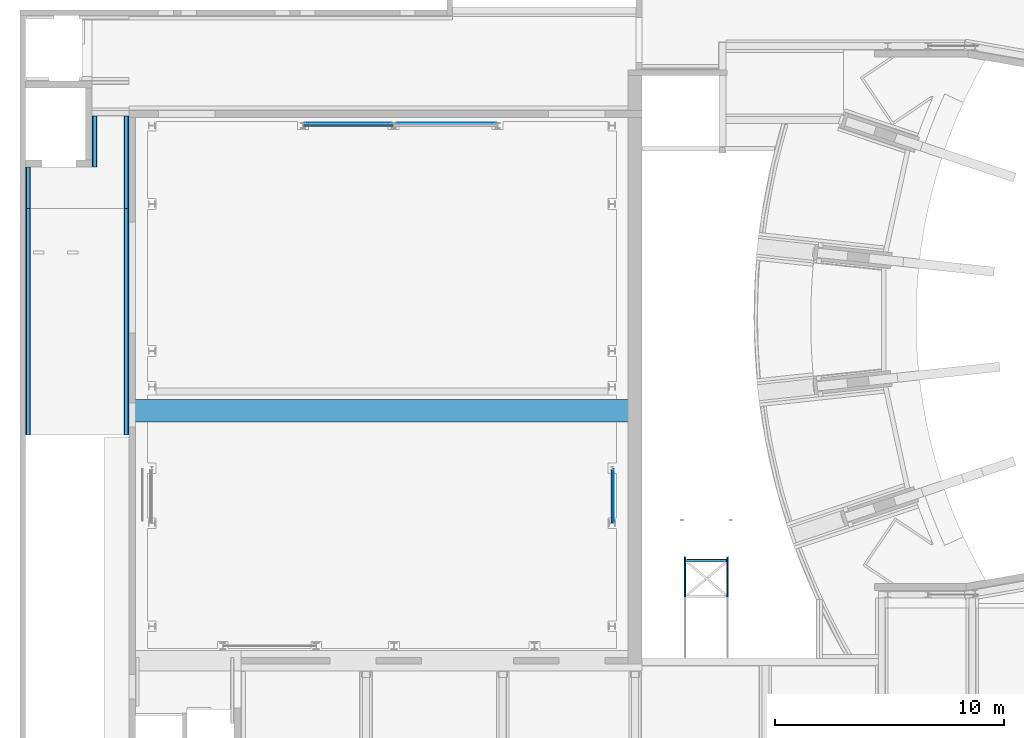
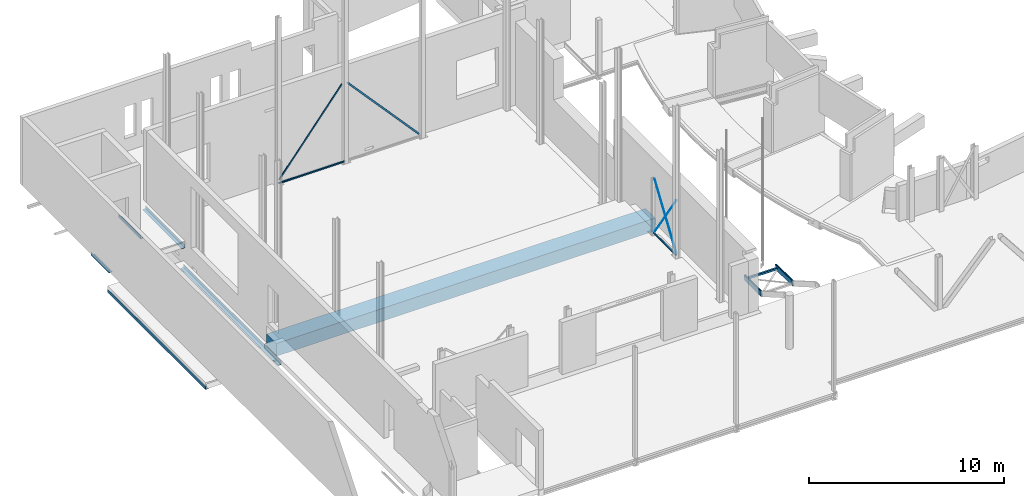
# One storey, part 13 of 37: 15 beams.
"""IFC2X3 building model written with IfcOpenShell, lengths in millimetres."""

from ifc_helpers import new_model, entity, si_unit, converted_unit, derived_unit, direction, frame, frame_2d, origin, origin_2d_with_axis, place, context, subcontext, project, spatial, polyline, circle_curve, parameter, trimmed, segment, composite_curve, rectangle, circle, outline, extrude, clip, halfspace, source, transform, mapped, material, type_object, type_shapes, element, save


model = new_model("IFC2X3")

# Units and contexts
model_context = context("Model", 3, precision=0.01, world=origin(), true_north=direction((6.12303176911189e-17, 1.0)))
body_context = subcontext(model_context, "Body", "Model", "MODEL_VIEW")
ifc_project = project(units=[si_unit("LENGTHUNIT", "METRE", prefix="MILLI"), si_unit("AREAUNIT", "SQUARE_METRE", prefix="MILLI"), si_unit("VOLUMEUNIT", "CUBIC_METRE"), converted_unit("PLANEANGLEUNIT", "DEGREE", entity("IfcRatioMeasure", 0.0174532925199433), si_unit("PLANEANGLEUNIT", "RADIAN"), dimensions=[0, 0, 0, 0, 0, 0, 0]), si_unit("MASSUNIT", "GRAM", prefix="KILO"), derived_unit("MASSDENSITYUNIT", [(si_unit("MASSUNIT", "GRAM", prefix="KILO"), 1), (si_unit("LENGTHUNIT", "METRE"), -3)]), derived_unit("MOMENTOFINERTIAUNIT", [(si_unit("LENGTHUNIT", "METRE"), 4)]), si_unit("TIMEUNIT", "SECOND"), si_unit("FREQUENCYUNIT", "HERTZ"), si_unit("THERMODYNAMICTEMPERATUREUNIT", "DEGREE_CELSIUS"), derived_unit("THERMALTRANSMITTANCEUNIT", [(si_unit("MASSUNIT", "GRAM", prefix="KILO"), 1), (si_unit("THERMODYNAMICTEMPERATUREUNIT", "KELVIN"), -1), (si_unit("TIMEUNIT", "SECOND"), -3)]), derived_unit("VOLUMETRICFLOWRATEUNIT", [(si_unit("LENGTHUNIT", "METRE"), 3), (si_unit("TIMEUNIT", "SECOND"), -1)]), si_unit("ELECTRICCURRENTUNIT", "AMPERE"), si_unit("ELECTRICVOLTAGEUNIT", "VOLT"), si_unit("POWERUNIT", "WATT"), si_unit("FORCEUNIT", "NEWTON", prefix="KILO"), si_unit("ILLUMINANCEUNIT", "LUX"), si_unit("LUMINOUSFLUXUNIT", "LUMEN"), si_unit("LUMINOUSINTENSITYUNIT", "CANDELA"), derived_unit("USERDEFINED", [(si_unit("MASSUNIT", "GRAM", prefix="KILO"), -1), (si_unit("LENGTHUNIT", "METRE"), -2), (si_unit("TIMEUNIT", "SECOND"), 3), (si_unit("LUMINOUSFLUXUNIT", "LUMEN"), 1)]), derived_unit("LINEARVELOCITYUNIT", [(si_unit("LENGTHUNIT", "METRE"), 1), (si_unit("TIMEUNIT", "SECOND"), -1)]), si_unit("PRESSUREUNIT", "PASCAL"), derived_unit("USERDEFINED", [(si_unit("LENGTHUNIT", "METRE"), -2), (si_unit("MASSUNIT", "GRAM", prefix="KILO"), 1), (si_unit("TIMEUNIT", "SECOND"), -2)]), derived_unit("LINEARFORCEUNIT", [(si_unit("MASSUNIT", "GRAM", prefix="KILO"), 1), (si_unit("LENGTHUNIT", "METRE"), 1), (si_unit("TIMEUNIT", "SECOND"), -2), (si_unit("LENGTHUNIT", "METRE"), -1)]), derived_unit("PLANARFORCEUNIT", [(si_unit("MASSUNIT", "GRAM", prefix="KILO"), 1), (si_unit("LENGTHUNIT", "METRE"), 1), (si_unit("TIMEUNIT", "SECOND"), -2), (si_unit("LENGTHUNIT", "METRE"), -2)])], contexts=[model_context])

# Site, building, storey
site_placement = place(None, origin())
site = spatial("IfcSite", under=ifc_project, at=site_placement, Name="Theater aan de Parade", CompositionType="ELEMENT")
building_placement = place(site_placement, origin())
building = spatial("IfcBuilding", under=site, at=building_placement, Name="Theater aan de Parade", CompositionType="ELEMENT")
storey_placement = place(building_placement, frame((0.0, 0.0, 5020.0)))
storey = spatial("IfcBuildingStorey", under=building, at=storey_placement, Name="01 eerste verdieping", CompositionType="ELEMENT", Elevation=5020.0)

# Beams
ifc_material_1 = material(Name="00_PBT_MAT_staal")
beam_type_1 = type_object("IfcBeamType", Name="28_PBT_SF_staal_strip:strip 6x100", PredefinedType="NOTDEFINED")
beam_1_placement = place(storey_placement, frame((22661.4021694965, 41043.308327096, -1290.46754617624), z_axis=(0.784100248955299, 0.0, -0.620634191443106), x_axis=(0.620634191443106, 0.0, 0.784100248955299)))
element("IfcBeam", 1, at=beam_1_placement, inside=storey, type_object=beam_type_1, material=ifc_material_1, Name="28_PBT_SF_staal_strip:strip 6x100", ObjectType="28_PBT_SF_staal_strip:strip 6x100", context=body_context, shape_type="SweptSolid", body=[
    extrude(rectangle(XDim=99.9999999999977, YDim=5.99999999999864, at=origin_2d_with_axis()), frame((181.193423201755, -3.0, 0.0), z_axis=(1.0, 0.0, 0.0), x_axis=(0.0, 0.0, -1.0)), (0.0, 0.0, 1.0), 5977.75638395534),
])
beam_2_placement = place(storey_placement, frame((26670.6787727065, 41043.308327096, 3657.57421189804), z_axis=(0.742128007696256, 0.0, 0.670258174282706), x_axis=(0.670258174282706, 0.0, -0.742128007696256)))
element("IfcBeam", 2, at=beam_2_placement, inside=storey, type_object=beam_type_1, material=ifc_material_1, Name="28_PBT_SF_staal_strip:strip 6x100", ObjectType="28_PBT_SF_staal_strip:strip 6x100", context=body_context, shape_type="SweptSolid", body=[
    extrude(rectangle(XDim=100.0, YDim=6.0000000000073, at=frame_2d((-3.62376795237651e-13, -4.33142410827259e-12), x_axis=(1.0, 0.0))), frame((172.314439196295, 3.0, 0.0), z_axis=(1.0, 0.0, 0.0), x_axis=(0.0, 0.0, -1.0)), (0.0, 0.0, 1.0), 6384.75953953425),
])
ifc_material_2 = material(Name="00_PBT_MAT_staal_S355")
beam_type_2 = type_object("IfcBeamType", Name="28_PBT_SF_staal_L-profiel:S355_L200x200x20", PredefinedType="NOTDEFINED")
beam_3_placement = place(storey_placement, frame((13511.6570025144, 41333.308327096, 0.0), z_axis=(0.0, 0.0, 1.0), x_axis=(0.0, -1.0, 0.0)))
element("IfcBeam", 3, at=beam_3_placement, inside=storey, type_object=beam_type_2, material=ifc_material_2, Name="28_PBT_SF_staal_L-profiel:S355_L200x200x20", ObjectType="28_PBT_SF_staal_L-profiel:S355_L200x200x20", context=body_context, shape_type="SweptSolid", body=[
    extrude(outline(composite_curve([segment(polyline([(-124.444444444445, -75.5555555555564), (75.5555555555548, -75.5555555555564)]), True, "CONTINUOUS"), segment(polyline([(75.5555555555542, -75.5555555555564), (75.5555555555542, 124.444444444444)]), True, "CONTINUOUS"), segment(polyline([(75.5555555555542, 124.444444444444), (64.5555555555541, 124.444444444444)]), True, "CONTINUOUS"), segment(trimmed(circle_curve(frame_2d((64.5555555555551, 115.444444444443), x_axis=(0.0, 1.0)), 9.0000000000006), [parameter(0.0)], [parameter(89.9999999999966)], True, "PARAMETER"), True, "CONTINUOUS"), segment(polyline([(55.5555555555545, 115.444444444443), (55.5555555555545, -37.5555555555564)]), True, "CONTINUOUS"), segment(trimmed(circle_curve(frame_2d((37.5555555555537, -37.5555555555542), x_axis=(1.0, 0.0)), 18.000000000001), [parameter(270.000000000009)], [parameter(0.0)], True, "PARAMETER"), False, "CONTINUOUS"), segment(polyline([(37.5555555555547, -55.5555555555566), (-115.444444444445, -55.5555555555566)]), True, "CONTINUOUS"), segment(trimmed(circle_curve(frame_2d((-115.444444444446, -64.5555555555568), x_axis=(0.0, 1.0)), 8.99999999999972), [parameter(0.0)], [parameter(90.0000000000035)], True, "PARAMETER"), True, "CONTINUOUS"), segment(polyline([(-124.444444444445, -64.5555555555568), (-124.444444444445, -75.5555555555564)]), True, "CONTINUOUS")], self_intersect=False)), frame((0.0, 18.7555555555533, -349.444444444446), z_axis=(1.0, 0.0, 0.0), x_axis=(0.0, 0.0, -1.0)), (0.0, 0.0, 1.0), 2213.30832712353),
])
beam_4_placement = place(storey_placement, frame((10610.9125537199, 39120.0, 0.0), z_axis=(0.0, 0.0, 1.0), x_axis=(0.0, -1.0, 0.0)))
element("IfcBeam", 4, at=beam_4_placement, inside=storey, type_object=beam_type_2, material=ifc_material_2, Name="28_PBT_SF_staal_L-profiel:S355_L200x200x20", ObjectType="28_PBT_SF_staal_L-profiel:S355_L200x200x20", context=body_context, shape_type="SweptSolid", body=[
    extrude(outline(composite_curve([segment(polyline([(-124.444444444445, -75.5555555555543), (75.5555555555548, -75.5555555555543)]), True, "CONTINUOUS"), segment(polyline([(75.5555555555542, -75.5555555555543), (75.5555555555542, 124.444444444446)]), True, "CONTINUOUS"), segment(polyline([(75.5555555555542, 124.444444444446), (64.5555555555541, 124.444444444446)]), True, "CONTINUOUS"), segment(trimmed(circle_curve(frame_2d((64.5555555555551, 115.444444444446), x_axis=(0.0, 1.0)), 9.0000000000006), [parameter(0.0)], [parameter(89.9999999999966)], True, "PARAMETER"), True, "CONTINUOUS"), segment(polyline([(55.5555555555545, 115.444444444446), (55.5555555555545, -37.5555555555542)]), True, "CONTINUOUS"), segment(trimmed(circle_curve(frame_2d((37.5555555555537, -37.5555555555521), x_axis=(1.0, 0.0)), 18.000000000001), [parameter(270.000000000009)], [parameter(0.0)], True, "PARAMETER"), False, "CONTINUOUS"), segment(polyline([(37.5555555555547, -55.5555555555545), (-115.444444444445, -55.5555555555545)]), True, "CONTINUOUS"), segment(trimmed(circle_curve(frame_2d((-115.444444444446, -64.5555555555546), x_axis=(0.0, 1.0)), 8.99999999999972), [parameter(0.0)], [parameter(90.0000000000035)], True, "PARAMETER"), True, "CONTINUOUS"), segment(polyline([(-124.444444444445, -64.5555555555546), (-124.444444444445, -75.5555555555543)]), True, "CONTINUOUS")], self_intersect=False)), frame((0.0, 18.7555555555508, -349.444444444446), z_axis=(1.0, 0.0, 0.0), x_axis=(0.0, 0.0, -1.0)), (0.0, 0.0, 1.0), 1816.68550017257),
])
beam_5_placement = place(storey_placement, frame((14997.0570025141, 41333.308327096, 0.0), z_axis=(0.0, 0.0, 1.0), x_axis=(0.0, -1.0, 0.0)))
element("IfcBeam", 5, at=beam_5_placement, inside=storey, type_object=beam_type_2, material=ifc_material_2, Name="28_PBT_SF_staal_L-profiel:S355_L200x200x20", ObjectType="28_PBT_SF_staal_L-profiel:S355_L200x200x20", context=body_context, shape_type="SweptSolid", body=[
    extrude(outline(composite_curve([segment(polyline([(64.5555555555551, -124.444444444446), (75.5555555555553, -124.444444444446)]), True, "CONTINUOUS"), segment(polyline([(75.5555555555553, -124.444444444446), (75.5555555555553, 75.5555555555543)]), True, "CONTINUOUS"), segment(polyline([(75.5555555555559, 75.5555555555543), (-124.444444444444, 75.5555555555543)]), True, "CONTINUOUS"), segment(polyline([(-124.444444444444, 75.5555555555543), (-124.444444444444, 64.5555555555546)]), True, "CONTINUOUS"), segment(trimmed(circle_curve(frame_2d((-115.444444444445, 64.5555555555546), x_axis=(-1.0, 0.0)), 8.99999999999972), [parameter(0.0)], [parameter(90.0000000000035)], True, "PARAMETER"), True, "CONTINUOUS"), segment(polyline([(-115.444444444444, 55.5555555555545), (37.5555555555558, 55.5555555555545)]), True, "CONTINUOUS"), segment(trimmed(circle_curve(frame_2d((37.5555555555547, 37.5555555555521), x_axis=(0.0, 1.0)), 18.000000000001), [parameter(270.000000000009)], [parameter(0.0)], True, "PARAMETER"), False, "CONTINUOUS"), segment(polyline([(55.5555555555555, 37.5555555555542), (55.5555555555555, -115.444444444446)]), True, "CONTINUOUS"), segment(trimmed(circle_curve(frame_2d((64.5555555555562, -115.444444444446), x_axis=(-1.0, 0.0)), 9.0000000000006), [parameter(0.0)], [parameter(89.9999999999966)], True, "PARAMETER"), True, "CONTINUOUS")], self_intersect=False)), frame((0.0, -18.755555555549, -349.444444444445), z_axis=(1.0, 0.0, 0.0), x_axis=(0.0, 0.0, -1.0)), (0.0, 0.0, 1.0), 4029.99382729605),
])
beam_6_placement = place(storey_placement, frame((10610.9125537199, 37428.3144998, 0.0), z_axis=(0.0, 0.0, 1.0), x_axis=(0.0, -1.0, 0.0)))
element("IfcBeam", 6, at=beam_6_placement, inside=storey, type_object=beam_type_2, material=ifc_material_2, Name="28_PBT_SF_staal_L-profiel:S355_L200x200x20", ObjectType="28_PBT_SF_staal_L-profiel:S355_L200x200x20", context=body_context, shape_type="SweptSolid", body=[
    extrude(outline(composite_curve([segment(polyline([(-124.444444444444, -75.5555555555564), (75.5555555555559, -75.5555555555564)]), True, "CONTINUOUS"), segment(polyline([(75.5555555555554, -75.5555555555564), (75.5555555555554, 124.444444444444)]), True, "CONTINUOUS"), segment(polyline([(75.5555555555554, 124.444444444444), (64.5555555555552, 124.444444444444)]), True, "CONTINUOUS"), segment(trimmed(circle_curve(frame_2d((64.5555555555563, 115.444444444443), x_axis=(0.0, 1.0)), 9.0000000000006), [parameter(0.0)], [parameter(89.9999999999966)], True, "PARAMETER"), True, "CONTINUOUS"), segment(polyline([(55.5555555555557, 115.444444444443), (55.5555555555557, -37.5555555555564)]), True, "CONTINUOUS"), segment(trimmed(circle_curve(frame_2d((37.5555555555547, -37.5555555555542), x_axis=(1.0, 0.0)), 18.000000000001), [parameter(270.000000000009)], [parameter(0.0)], True, "PARAMETER"), False, "CONTINUOUS"), segment(polyline([(37.5555555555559, -55.5555555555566), (-115.444444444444, -55.5555555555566)]), True, "CONTINUOUS"), segment(trimmed(circle_curve(frame_2d((-115.444444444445, -64.5555555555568), x_axis=(0.0, 1.0)), 8.99999999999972), [parameter(0.0)], [parameter(90.0000000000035)], True, "PARAMETER"), True, "CONTINUOUS"), segment(polyline([(-124.444444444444, -64.5555555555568), (-124.444444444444, -75.5555555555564)]), True, "CONTINUOUS")], self_intersect=False)), frame((0.0, 18.7555555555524, -1649.44444444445), z_axis=(1.0, 0.0, 0.0), x_axis=(0.0, 0.0, -1.0)), (0.0, 0.0, 1.0), 10008.9874252),
])
beam_7_placement = place(storey_placement, frame((14997.0570025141, 37428.3144998, 0.0), z_axis=(0.0, 0.0, 1.0), x_axis=(0.0, -1.0, 0.0)))
element("IfcBeam", 7, at=beam_7_placement, inside=storey, type_object=beam_type_2, material=ifc_material_2, Name="28_PBT_SF_staal_L-profiel:S355_L200x200x20", ObjectType="28_PBT_SF_staal_L-profiel:S355_L200x200x20", context=body_context, shape_type="SweptSolid", body=[
    extrude(outline(composite_curve([segment(polyline([(64.5555555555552, -124.444444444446), (75.5555555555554, -124.444444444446)]), True, "CONTINUOUS"), segment(polyline([(75.5555555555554, -124.444444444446), (75.5555555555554, 75.5555555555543)]), True, "CONTINUOUS"), segment(polyline([(75.5555555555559, 75.5555555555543), (-124.444444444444, 75.5555555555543)]), True, "CONTINUOUS"), segment(polyline([(-124.444444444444, 75.5555555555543), (-124.444444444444, 64.5555555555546)]), True, "CONTINUOUS"), segment(trimmed(circle_curve(frame_2d((-115.444444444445, 64.5555555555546), x_axis=(-1.0, 0.0)), 8.99999999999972), [parameter(0.0)], [parameter(90.0000000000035)], True, "PARAMETER"), True, "CONTINUOUS"), segment(polyline([(-115.444444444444, 55.5555555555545), (37.5555555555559, 55.5555555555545)]), True, "CONTINUOUS"), segment(trimmed(circle_curve(frame_2d((37.5555555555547, 37.5555555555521), x_axis=(0.0, 1.0)), 18.000000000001), [parameter(270.000000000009)], [parameter(0.0)], True, "PARAMETER"), False, "CONTINUOUS"), segment(polyline([(55.5555555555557, 37.5555555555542), (55.5555555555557, -115.444444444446)]), True, "CONTINUOUS"), segment(trimmed(circle_curve(frame_2d((64.5555555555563, -115.444444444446), x_axis=(-1.0, 0.0)), 9.0000000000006), [parameter(0.0)], [parameter(89.9999999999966)], True, "PARAMETER"), True, "CONTINUOUS")], self_intersect=False)), frame((0.0, -18.7555555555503, -1649.44444444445), z_axis=(1.0, 0.0, 0.0), x_axis=(0.0, 0.0, -1.0)), (0.0, 0.0, 1.0), 10008.9874252),
])
ifc_material_3 = material(Name="00_PBT_MAT_beton t.p.g._C30/37")
beam_type_3 = type_object("IfcBeamType", Name="28_PBT_SF_betonbalk:C30/37_1000x1800", PredefinedType="NOTDEFINED")
beam_8_placement = place(storey_placement, frame((15203.8570025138, 28973.314499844, 0.0)))
element("IfcBeam", 8, at=beam_8_placement, inside=storey, type_object=beam_type_3, material=ifc_material_3, Name="28_PBT_SF_betonbalk:C30/37_1000x1800", ObjectType="28_PBT_SF_betonbalk:C30/37_1000x1800", context=body_context, shape_type="SweptSolid", body=[
    extrude(rectangle(XDim=800.0, YDim=1000.0, at=frame_2d((0.0, -4.32009983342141e-12), x_axis=(1.0, 0.0))), frame((-150.0, -500.0, -1150.0), z_axis=(1.0, 0.0, 0.0), x_axis=(0.0, 0.0, -1.0)), (0.0, 0.0, 1.0), 22400.0011275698),
])
beam_type_4 = type_object("IfcBeamType", Name="28_PBT_SF_staal_koker:S355_K80x80x5", PredefinedType="NOTDEFINED")
beam_9_placement = place(storey_placement, frame((22658.8570032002, 40923.3083270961, 0.0)))
element("IfcBeam", 9, at=beam_9_placement, inside=storey, type_object=beam_type_4, material=ifc_material_2, Name="28_PBT_SF_staal_koker:S355_K80x80x5", ObjectType="28_PBT_SF_staal_koker:S355_K80x80x5", context=body_context, shape_type="SweptSolid", body=[
    extrude(outline(composite_curve([segment(polyline([(-32.5000000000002, -40.0), (32.4999999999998, -40.0)]), True, "CONTINUOUS"), segment(trimmed(circle_curve(frame_2d((32.4999999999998, -32.5000000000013), x_axis=(0.0, 1.0)), 7.5), [parameter(180.0)], [parameter(270.0)], True, "PARAMETER"), True, "CONTINUOUS"), segment(polyline([(40.0, -32.4999999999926), (40.0, 32.5000000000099)]), True, "CONTINUOUS"), segment(trimmed(circle_curve(frame_2d((32.4999999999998, 32.5000000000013), x_axis=(0.0, 1.0)), 7.5), [parameter(270.0)], [parameter(360.0)], True, "PARAMETER"), True, "CONTINUOUS"), segment(polyline([(32.4999999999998, 40.0), (-32.5000000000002, 40.0)]), True, "CONTINUOUS"), segment(trimmed(circle_curve(frame_2d((-32.5000000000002, 32.5000000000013), x_axis=(0.0, 1.0)), 7.5), [parameter(0.0)], [parameter(90.0000000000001)], True, "PARAMETER"), True, "CONTINUOUS"), segment(polyline([(-40.0, 32.5000000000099), (-40.0, -32.4999999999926)]), True, "CONTINUOUS"), segment(trimmed(circle_curve(frame_2d((-32.5000000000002, -32.5000000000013), x_axis=(0.0, 1.0)), 7.5), [parameter(90.0)], [parameter(180.0)], True, "PARAMETER"), True, "CONTINUOUS")], self_intersect=False), holes=[composite_curve([segment(polyline([(35.0, 30.0), (35.0, -30.0)]), True, "CONTINUOUS"), segment(trimmed(circle_curve(frame_2d((30.0, -30.0), x_axis=(0.0, 1.0)), 5.0), [parameter(180.0)], [parameter(270.0)], True, "PARAMETER"), False, "CONTINUOUS"), segment(polyline([(30.0, -35.0), (-30.0, -35.0)]), True, "CONTINUOUS"), segment(trimmed(circle_curve(frame_2d((-30.0, -30.0), x_axis=(0.0, 1.0)), 5.0), [parameter(90.0)], [parameter(180.0)], True, "PARAMETER"), False, "CONTINUOUS"), segment(polyline([(-35.0, -30.0), (-35.0, 30.0)]), True, "CONTINUOUS"), segment(trimmed(circle_curve(frame_2d((-30.0, 30.0), x_axis=(0.0, 1.0)), 5.0), [parameter(4.07110999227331e-13)], [parameter(90.0000000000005)], True, "PARAMETER"), False, "CONTINUOUS"), segment(polyline([(-30.0, 35.0), (30.0, 35.0)]), True, "CONTINUOUS"), segment(trimmed(circle_curve(frame_2d((30.0, 30.0), x_axis=(0.0, 1.0)), 5.0), [parameter(270.0)], [parameter(5.08888749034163e-14)], True, "PARAMETER"), False, "CONTINUOUS")], self_intersect=False)]), frame((0.0, 0.0, -1250.0), z_axis=(1.0, 0.0, 0.0), x_axis=(0.0, 0.0, 1.0)), (0.0, 0.0, 1.0), 3940.0),
])
beam_10_placement = place(storey_placement, frame((36153.8581300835, 25896.7922984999, 0.0), z_axis=(0.0, 0.0, 1.0), x_axis=(0.0, -1.0, 0.0)))
element("IfcBeam", 10, at=beam_10_placement, inside=storey, type_object=beam_type_4, material=ifc_material_2, Name="28_PBT_SF_staal_koker:S355_K80x80x5", ObjectType="28_PBT_SF_staal_koker:S355_K80x80x5", context=body_context, shape_type="SweptSolid", body=[
    extrude(outline(composite_curve([segment(trimmed(circle_curve(frame_2d((-32.5000000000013, -32.5000000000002), x_axis=(1.0, 0.0)), 7.5), [parameter(180.0)], [parameter(270.0)], True, "PARAMETER"), True, "CONTINUOUS"), segment(polyline([(-32.5000000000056, -40.0), (32.4999999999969, -40.0)]), True, "CONTINUOUS"), segment(trimmed(circle_curve(frame_2d((32.4999999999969, -32.5000000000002), x_axis=(1.0, 0.0)), 7.5), [parameter(270.0)], [parameter(0.0)], True, "PARAMETER"), True, "CONTINUOUS"), segment(polyline([(40.0, -32.5000000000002), (40.0, 32.5000000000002)]), True, "CONTINUOUS"), segment(trimmed(circle_curve(frame_2d((32.4999999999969, 32.5000000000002), x_axis=(1.0, 0.0)), 7.5), [parameter(4.07110999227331e-13)], [parameter(90.0000000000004)], True, "PARAMETER"), True, "CONTINUOUS"), segment(polyline([(32.4999999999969, 40.0), (-32.5000000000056, 40.0)]), True, "CONTINUOUS"), segment(trimmed(circle_curve(frame_2d((-32.5000000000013, 32.5000000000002), x_axis=(1.0, 0.0)), 7.5), [parameter(90.0)], [parameter(180.0)], True, "PARAMETER"), True, "CONTINUOUS"), segment(polyline([(-40.0, 32.5000000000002), (-40.0, -32.5000000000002)]), True, "CONTINUOUS")], self_intersect=False), holes=[composite_curve([segment(trimmed(circle_curve(frame_2d((30.0, 30.0), x_axis=(1.0, 0.0)), 5.0), [parameter(360.0)], [parameter(90.0000000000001)], True, "PARAMETER"), False, "CONTINUOUS"), segment(polyline([(35.0, 30.0), (35.0, -30.0)]), True, "CONTINUOUS"), segment(trimmed(circle_curve(frame_2d((30.0, -30.0), x_axis=(1.0, 0.0)), 5.0), [parameter(269.999999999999)], [parameter(360.0)], True, "PARAMETER"), False, "CONTINUOUS"), segment(polyline([(30.0, -35.0), (-30.0, -35.0)]), True, "CONTINUOUS"), segment(trimmed(circle_curve(frame_2d((-30.0, -30.0), x_axis=(1.0, 0.0)), 5.0), [parameter(180.0)], [parameter(270.0)], True, "PARAMETER"), False, "CONTINUOUS"), segment(polyline([(-35.0, -30.0), (-35.0, 30.0)]), True, "CONTINUOUS"), segment(trimmed(circle_curve(frame_2d((-30.0, 30.0), x_axis=(1.0, 0.0)), 5.0), [parameter(89.9999999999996)], [parameter(180.0)], True, "PARAMETER"), False, "CONTINUOUS"), segment(polyline([(-30.0, 35.0), (30.0, 35.0)]), True, "CONTINUOUS")], self_intersect=False)]), frame((0.0, 0.0, 50.0), z_axis=(1.0, 0.0, 0.0), x_axis=(0.0, 1.0, 0.0)), (0.0, 0.0, 1.0), 2323.25000000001),
])
beam_type_5 = type_object("IfcBeamType", Name="28_PBT_SF_staal_massief_rond:S355_D32", PredefinedType="NOTDEFINED")
beam_11_placement = place(storey_placement, frame((36213.3581300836, 23637.959433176, 103.431236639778), z_axis=(1.0, 0.0, 0.0), x_axis=(0.0, 0.558652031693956, 0.829402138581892)))
element("IfcBeam", 11, at=beam_11_placement, inside=storey, type_object=beam_type_5, material=ifc_material_2, Name="28_PBT_SF_staal_massief_rond:S355_D32", ObjectType="28_PBT_SF_staal_massief_rond:S355_D32", context=body_context, shape_type="SweptSolid", body=[
    extrude(circle(Radius=15.9999999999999, at=origin_2d_with_axis()), frame((0.0, 0.0, -16.0), z_axis=(1.0, 0.0, 0.0), x_axis=(0.0, 0.0, -1.0)), (0.0, 0.0, 1.0), 4000.0),
])
beam_12_placement = place(storey_placement, frame((36198.3581300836, 25910.2648540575, 78.7271384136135), z_axis=(1.0, 0.0, 0.0), x_axis=(0.0, -0.558652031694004, 0.829402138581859)))
element("IfcBeam", 12, at=beam_12_placement, inside=storey, type_object=beam_type_5, material=ifc_material_2, Name="28_PBT_SF_staal_massief_rond:S355_D32", ObjectType="28_PBT_SF_staal_massief_rond:S355_D32", context=body_context, shape_type="SweptSolid", body=[
    extrude(circle(Radius=15.9999999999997, at=origin_2d_with_axis()), frame((0.0, 0.0, 16.0), z_axis=(1.0, 0.0, 0.0), x_axis=(0.0, 0.0, -1.0)), (0.0, 0.0, 1.0), 3980.0),
])
beam_type_6 = type_object("IfcBeamType", Name="28_PBT_SF_staal_trapboom_glas:trapboom", PredefinedType="BEAM", material=ifc_material_2)
shared_shape_1 = source(origin(), body_context, "Body", "Clipping", [
    clip(clip(extrude(rectangle(XDim=20.0000000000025, YDim=30.0000000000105, at=frame_2d((8.66329230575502e-12, 1.35358391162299e-12), x_axis=(0.0, 1.0))), frame((41191.8281932, 22049.6464705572, 3365.0), z_axis=(0.0, -1.0, 0.0), x_axis=(-1.0, 0.0, 0.0)), (0.0, 0.0, 1.0), 1709.77764318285), halfspace(frame((39781.7063235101, 23384.6316666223, 8359.77091390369), z_axis=(0.0, 0.965958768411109, -0.258696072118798), x_axis=(0.0, 0.258696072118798, 0.965958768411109)), False)), halfspace(frame((39781.7063235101, 21680.2102783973, 8359.77091390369), z_axis=(0.0, -0.965958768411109, 0.258696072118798), x_axis=(0.0, 0.258696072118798, 0.965958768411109)), False)),
    clip(clip(extrude(rectangle(XDim=310.0, YDim=30.0000000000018, at=frame_2d((4.33164615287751e-12, 1.89004367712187e-12), x_axis=(0.0, 1.0))), frame((41221.8281932, 22121.9559124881, 3490.0), z_axis=(0.0, -1.0, 0.0), x_axis=(-1.0, 0.0, 0.0)), (0.0, 0.0, 1.0), 1787.4433400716), halfspace(frame((39781.7063235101, 23384.6316666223, 8359.77091390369), z_axis=(0.0, 0.965958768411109, -0.258696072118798), x_axis=(0.0, 0.258696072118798, 0.965958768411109)), False)), halfspace(frame((39781.7063235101, 21680.2102783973, 8359.77091390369), z_axis=(0.0, -0.965958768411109, 0.258696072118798), x_axis=(0.0, 0.258696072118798, 0.965958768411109)), False)),
    clip(clip(extrude(rectangle(XDim=19.9999999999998, YDim=30.0000000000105, at=frame_2d((8.66329230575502e-12, 1.62447832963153e-12), x_axis=(0.0, 1.0))), frame((41191.8281932, 22089.818382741, 3515.0), z_axis=(0.0, -1.0, 0.0), x_axis=(-1.0, 0.0, 0.0)), (0.0, 0.0, 1.0), 1709.77764318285), halfspace(frame((39781.7063235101, 23384.6316666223, 8359.77091390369), z_axis=(0.0, 0.965958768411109, -0.258696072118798), x_axis=(0.0, 0.258696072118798, 0.965958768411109)), False)), halfspace(frame((39781.7063235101, 21680.2102783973, 8359.77091390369), z_axis=(0.0, -0.965958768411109, 0.258696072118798), x_axis=(0.0, 0.258696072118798, 0.965958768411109)), False)),
    clip(clip(extrude(rectangle(XDim=310.0, YDim=29.9999999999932, at=frame_2d((0.0, 1.89004367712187e-12), x_axis=(0.0, 1.0))), frame((41161.8281932, 22121.9559124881, 3490.0), z_axis=(0.0, -1.0, 0.0), x_axis=(-1.0, 0.0, 0.0)), (0.0, 0.0, 1.0), 1787.4433400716), halfspace(frame((39781.7063235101, 23384.6316666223, 8359.77091390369), z_axis=(0.0, 0.965958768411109, -0.258696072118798), x_axis=(0.0, 0.258696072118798, 0.965958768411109)), False)), halfspace(frame((39781.7063235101, 21680.2102783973, 8359.77091390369), z_axis=(0.0, -0.965958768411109, 0.258696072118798), x_axis=(0.0, 0.258696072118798, 0.965958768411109)), False)),
])
type_shapes(beam_type_6, [shared_shape_1])
beam_13_placement = place(storey_placement, frame((0.0, 0.0, -5020.0)))
element("IfcBeam", 13, at=beam_13_placement, inside=storey, type_object=beam_type_6, material=ifc_material_2, Name="28_PBT_SF_staal_trapboom_glas:trapboom", ObjectType="28_PBT_SF_staal_trapboom_glas:trapboom", context=body_context, shape_type="MappedRepresentation", body=[
    mapped(shared_shape_1, transform((0.0, 0.0, 0.0), scale=1.0)),
])
beam_type_7 = type_object("IfcBeamType", Name="28_PBT_SF_staal_trapboom_glas:trapboom", PredefinedType="BEAM", material=ifc_material_2)
shared_shape_2 = source(origin(), body_context, "Body", "Clipping", [
    clip(clip(extrude(rectangle(XDim=20.0000000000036, YDim=30.0000000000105, at=frame_2d((0.0, 2.70894418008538e-13), x_axis=(0.0, 1.0))), frame((39341.8281932, 22049.6464705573, 3365.0), z_axis=(0.0, -1.0, 0.0), x_axis=(-1.0, 0.0, 0.0)), (0.0, 0.0, 1.0), 1709.77764318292), halfspace(frame((42401.8281932, 22529.6931484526, 5167.47135050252), z_axis=(0.0, 0.965958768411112, -0.258696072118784), x_axis=(-1.0, 0.0, 0.0)), False)), halfspace(frame((36281.8281932, 20764.1773536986, 4939.34775664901), z_axis=(0.0, -0.965958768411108, 0.258696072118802), x_axis=(1.0, 0.0, 0.0)), False)),
    clip(clip(extrude(rectangle(XDim=310.000000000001, YDim=30.0000000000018, at=frame_2d((-4.33164615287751e-12, -5.54223333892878e-13), x_axis=(0.0, 1.0))), frame((39311.8281932, 22121.9559124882, 3490.0), z_axis=(0.0, -1.0, 0.0), x_axis=(-1.0, 0.0, 0.0)), (0.0, 0.0, 1.0), 1787.44334007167), halfspace(frame((42401.8281932, 22529.6931484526, 5167.47135050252), z_axis=(0.0, 0.965958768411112, -0.258696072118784), x_axis=(-1.0, 0.0, 0.0)), False)), halfspace(frame((36281.8281932, 20764.1773536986, 4939.34775664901), z_axis=(0.0, -0.965958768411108, 0.258696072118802), x_axis=(1.0, 0.0, 0.0)), False)),
    clip(clip(extrude(rectangle(XDim=20.0000000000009, YDim=30.0000000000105, at=frame_2d((0.0, -5.41788836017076e-13), x_axis=(0.0, 1.0))), frame((39341.8281932, 22089.8183827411, 3515.0), z_axis=(0.0, -1.0, 0.0), x_axis=(-1.0, 0.0, 0.0)), (0.0, 0.0, 1.0), 1709.77764318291), halfspace(frame((42401.8281932, 22529.6931484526, 5167.47135050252), z_axis=(0.0, 0.965958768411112, -0.258696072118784), x_axis=(-1.0, 0.0, 0.0)), False)), halfspace(frame((36281.8281932, 20764.1773536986, 4939.34775664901), z_axis=(0.0, -0.965958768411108, 0.258696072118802), x_axis=(1.0, 0.0, 0.0)), False)),
    clip(clip(extrude(rectangle(XDim=310.000000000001, YDim=29.9999999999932, at=frame_2d((0.0, -5.54223333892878e-13), x_axis=(0.0, 1.0))), frame((39371.8281932, 22121.9559124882, 3490.0), z_axis=(0.0, -1.0, 0.0), x_axis=(-1.0, 0.0, 0.0)), (0.0, 0.0, 1.0), 1787.44334007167), halfspace(frame((42401.8281932, 22529.6931484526, 5167.47135050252), z_axis=(0.0, 0.965958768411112, -0.258696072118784), x_axis=(-1.0, 0.0, 0.0)), False)), halfspace(frame((36281.8281932, 20764.1773536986, 4939.34775664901), z_axis=(0.0, -0.965958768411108, 0.258696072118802), x_axis=(1.0, 0.0, 0.0)), False)),
])
type_shapes(beam_type_7, [shared_shape_2])
beam_14_placement = place(storey_placement, frame((0.0, 0.0, -5020.0)))
element("IfcBeam", 14, at=beam_14_placement, inside=storey, type_object=beam_type_7, material=ifc_material_2, Name="28_PBT_SF_staal_trapboom_glas:trapboom", ObjectType="28_PBT_SF_staal_trapboom_glas:trapboom", context=body_context, shape_type="MappedRepresentation", body=[
    mapped(shared_shape_2, transform((0.0, 0.0, 0.0), scale=1.0)),
])
ifc_material_4 = material(Name="00_PBT_MAT_staal_S235")
beam_type_8 = type_object("IfcBeamType", Name="28_PBT_SF_staal_koker:S235_K120x120x6.3", PredefinedType="NOTDEFINED")
beam_15_placement = place(storey_placement, frame((41141.8281931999, 21937.4536004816, 0.0), z_axis=(0.0, 0.0, 1.0), x_axis=(-1.0, 0.0, 0.0)))
element("IfcBeam", 15, at=beam_15_placement, inside=storey, type_object=beam_type_8, material=ifc_material_4, Name="28_PBT_SF_staal_koker:S235_K120x120x6.3", ObjectType="28_PBT_SF_staal_koker:S235_K120x120x6.3", context=body_context, shape_type="SweptSolid", body=[
    extrude(outline(composite_curve([segment(polyline([(-50.55, -60.0), (50.5500000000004, -60.0)]), True, "CONTINUOUS"), segment(trimmed(circle_curve(frame_2d((50.5500000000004, -50.5500000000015), x_axis=(0.0, 1.0)), 9.45), [parameter(180.0)], [parameter(270.0)], True, "PARAMETER"), True, "CONTINUOUS"), segment(polyline([(60.0, -50.5500000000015), (60.0, 50.5500000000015)]), True, "CONTINUOUS"), segment(trimmed(circle_curve(frame_2d((50.5500000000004, 50.5499999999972), x_axis=(0.0, 1.0)), 9.45), [parameter(270.0)], [parameter(360.0)], True, "PARAMETER"), True, "CONTINUOUS"), segment(polyline([(50.5500000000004, 60.0), (-50.55, 60.0)]), True, "CONTINUOUS"), segment(trimmed(circle_curve(frame_2d((-50.55, 50.5499999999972), x_axis=(0.0, 1.0)), 9.45), [parameter(0.0)], [parameter(90.0000000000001)], True, "PARAMETER"), True, "CONTINUOUS"), segment(polyline([(-60.0, 50.5500000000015), (-60.0, -50.5500000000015)]), True, "CONTINUOUS"), segment(trimmed(circle_curve(frame_2d((-50.55, -50.5500000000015), x_axis=(0.0, 1.0)), 9.45), [parameter(90.0)], [parameter(180.0)], True, "PARAMETER"), True, "CONTINUOUS")], self_intersect=False), holes=[composite_curve([segment(polyline([(53.7000000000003, 47.3999999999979), (53.7000000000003, -47.3999999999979)]), True, "CONTINUOUS"), segment(trimmed(circle_curve(frame_2d((47.4000000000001, -47.4000000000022), x_axis=(0.0, 1.0)), 6.3), [parameter(180.0)], [parameter(270.0)], True, "PARAMETER"), False, "CONTINUOUS"), segment(polyline([(47.4000000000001, -53.7000000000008), (-47.3999999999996, -53.7000000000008)]), True, "CONTINUOUS"), segment(trimmed(circle_curve(frame_2d((-47.3999999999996, -47.4000000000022), x_axis=(0.0, 1.0)), 6.3), [parameter(90.0)], [parameter(180.0)], True, "PARAMETER"), False, "CONTINUOUS"), segment(polyline([(-53.6999999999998, -47.3999999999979), (-53.6999999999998, 47.3999999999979)]), True, "CONTINUOUS"), segment(trimmed(circle_curve(frame_2d((-47.3999999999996, 47.3999999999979), x_axis=(0.0, 1.0)), 6.3), [parameter(4.07110999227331e-13)], [parameter(90.0000000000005)], True, "PARAMETER"), False, "CONTINUOUS"), segment(polyline([(-47.3999999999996, 53.7000000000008), (47.4000000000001, 53.7000000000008)]), True, "CONTINUOUS"), segment(trimmed(circle_curve(frame_2d((47.4000000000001, 47.3999999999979), x_axis=(0.0, 1.0)), 6.3), [parameter(270.0)], [parameter(360.0)], True, "PARAMETER"), False, "CONTINUOUS")], self_intersect=False)]), frame((0.0, 0.0, -1530.0), z_axis=(1.0, 0.0, 0.0), x_axis=(0.0, 0.0, 1.0)), (0.0, 0.0, 1.0), 1735.0),
])

save(model, "model.ifc")
